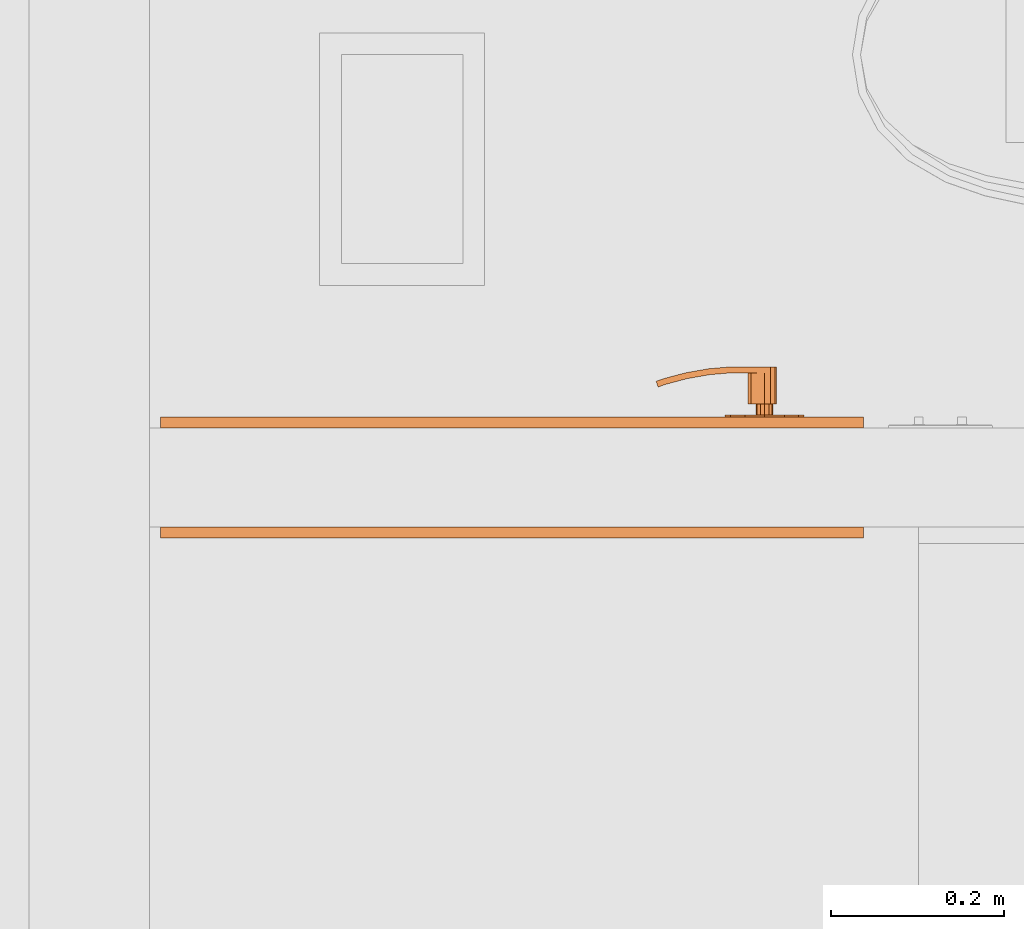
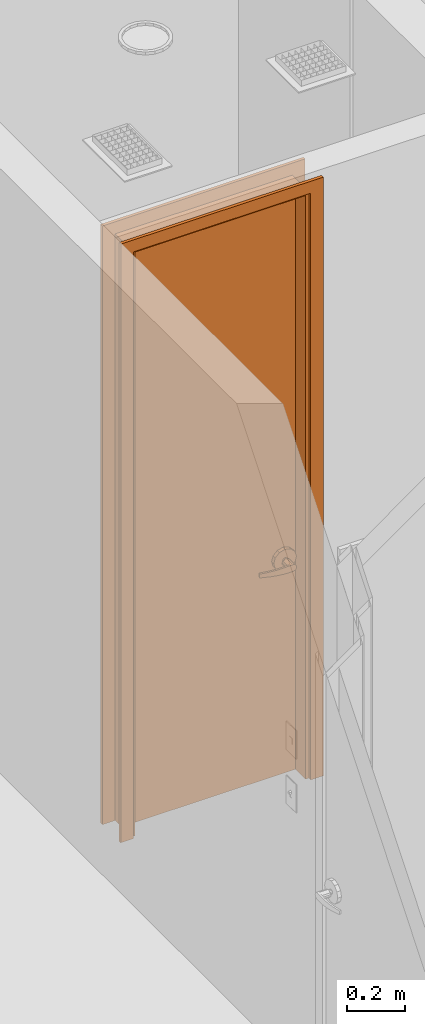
# One storey, part 23 of 48: 1 proxy.
"""IFC2X3 building model written with IfcOpenShell, lengths in inches."""

from ifc_helpers import new_model, entity, si_unit, converted_unit, derived_unit, money_unit, direction, frame, origin_with_axes, place, context, subcontext, project, spatial, open_shell, faceted_brep, surface_model, source, transform, mapped, type_object, element, save


model = new_model("IFC2X3")

# Units and contexts
model_context = context("Model", 3, precision=0.00039370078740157, world=origin_with_axes(), true_north=direction((0.0, 1.0)))
plan_context = context("Plan", 3, precision=0.00039370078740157, world=origin_with_axes(), true_north=direction((0.0, 1.0)))
body_context = subcontext(model_context, "Body", "Model", "MODEL_VIEW")
ifc_project = project(units=[converted_unit("LENGTHUNIT", "INCH", entity("IfcPositiveLengthMeasure", 0.0254), si_unit("LENGTHUNIT", "METRE"), dimensions=[1, 0, 0, 0, 0, 0, 0]), converted_unit("AREAUNIT", "SQUARE_FOOT", entity("IfcPositiveLengthMeasure", 0.09290304), si_unit("AREAUNIT", "SQUARE_METRE"), dimensions=[2, 0, 0, 0, 0, 0, 0]), si_unit("PLANEANGLEUNIT", "RADIAN"), si_unit("SOLIDANGLEUNIT", "STERADIAN"), money_unit("USD"), converted_unit("TIMEUNIT", "Year", entity("IfcTimeMeasure", 31557600.0), si_unit("TIMEUNIT", "SECOND"), dimensions=[0, 0, 1, 0, 0, 0, 0]), si_unit("MASSUNIT", "GRAM", prefix="KILO"), si_unit("THERMODYNAMICTEMPERATUREUNIT", "DEGREE_CELSIUS"), si_unit("LUMINOUSINTENSITYUNIT", "LUMEN"), si_unit("ENERGYUNIT", "JOULE", prefix="MEGA"), derived_unit("SPECIFICHEATCAPACITYUNIT", [(si_unit("ENERGYUNIT", "JOULE"), 1), (si_unit("MASSUNIT", "GRAM", prefix="KILO"), -1), (si_unit("THERMODYNAMICTEMPERATUREUNIT", "KELVIN"), -1)])], contexts=[model_context, plan_context])

# Site, building, storey
site_placement = place(None, origin_with_axes())
site = spatial("IfcSite", under=ifc_project, at=site_placement, Name="Site", CompositionType="ELEMENT")
building_placement = place(site_placement, origin_with_axes())
building = spatial("IfcBuilding", under=site, at=building_placement, Name="Building", CompositionType="ELEMENT")
storey_placement = place(building_placement, origin_with_axes())
storey = spatial("IfcBuildingStorey", under=building, at=storey_placement, Name="First Floor", CompositionType="ELEMENT", Elevation=0.0)

# Proxy
building_element_proxy_type = type_object("IfcBuildingElementProxyType", Name="D1", PredefinedType="NOTDEFINED")
shared_shape = source(origin_with_axes(), body_context, "Body", "SurfaceModel", [
    faceted_brep([(15.9999999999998, -4.999999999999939, 0.0), (13.99999999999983, -4.999999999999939, 0.0), (13.99999999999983, -4.499999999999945, 0.0), (15.9999999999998, -4.499999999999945, 0.0), (15.9999999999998, -4.999999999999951, 99.99999999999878), (13.99999999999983, -4.999999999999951, 97.99999999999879), (13.99999999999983, -4.499999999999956, 97.99999999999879), (15.9999999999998, -4.499999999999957, 99.99999999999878)], [[[0, 1, 2, 3]], [[0, 4, 5, 1]], [[1, 5, 6, 2]], [[3, 2, 6, 7]], [[4, 0, 3, 7]], [[5, 4, 7, 6]]]),
    faceted_brep([(-15.9999999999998, -4.999999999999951, 99.99999999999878), (-13.99999999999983, -4.999999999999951, 97.99999999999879), (-13.99999999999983, -4.499999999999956, 97.99999999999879), (-15.9999999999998, -4.499999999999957, 99.99999999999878), (-15.9999999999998, -4.999999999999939, 0.0), (-13.99999999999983, -4.999999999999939, 0.0), (-13.99999999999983, -4.499999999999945, 0.0), (-15.9999999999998, -4.499999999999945, 0.0)], [[[0, 1, 2, 3]], [[0, 4, 5, 1]], [[1, 5, 6, 2]], [[3, 2, 6, 7]], [[4, 0, 3, 7]], [[5, 4, 7, 6]]]),
    faceted_brep([(15.9999999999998, -4.999999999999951, 99.99999999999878), (13.99999999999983, -4.999999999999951, 97.99999999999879), (13.99999999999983, -4.499999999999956, 97.99999999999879), (15.9999999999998, -4.499999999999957, 99.99999999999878), (-15.9999999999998, -4.999999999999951, 99.99999999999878), (-13.99999999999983, -4.999999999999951, 97.99999999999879), (-13.99999999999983, -4.499999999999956, 97.99999999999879), (-15.9999999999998, -4.499999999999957, 99.99999999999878)], [[[0, 1, 2, 3]], [[0, 4, 5, 1]], [[1, 5, 6, 2]], [[3, 2, 6, 7]], [[4, 0, 3, 7]], [[5, 4, 7, 6]]]),
    faceted_brep([(15.9999999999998, 0.4999999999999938, 0.0), (15.9999999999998, 0.0, 0.0), (13.99999999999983, 0.0, 0.0), (13.99999999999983, 0.4999999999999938, 0.0), (15.9999999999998, 0.4999999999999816, 99.99999999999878), (15.9999999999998, 0.0, 99.99999999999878), (13.99999999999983, 0.0, 97.99999999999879), (13.99999999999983, 0.4999999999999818, 97.99999999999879)], [[[0, 1, 2, 3]], [[4, 5, 1, 0]], [[1, 5, 6, 2]], [[3, 2, 6, 7]], [[0, 3, 7, 4]], [[7, 6, 5, 4]]]),
    faceted_brep([(-15.9999999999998, 0.4999999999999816, 99.99999999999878), (-15.9999999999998, 0.0, 99.99999999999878), (-13.99999999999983, 0.0, 97.99999999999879), (-13.99999999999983, 0.4999999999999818, 97.99999999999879), (-15.9999999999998, 0.4999999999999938, 0.0), (-15.9999999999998, 0.0, 0.0), (-13.99999999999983, 0.0, 0.0), (-13.99999999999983, 0.4999999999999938, 0.0)], [[[0, 1, 2, 3]], [[4, 5, 1, 0]], [[1, 5, 6, 2]], [[3, 2, 6, 7]], [[0, 3, 7, 4]], [[7, 6, 5, 4]]]),
    faceted_brep([(15.9999999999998, 0.4999999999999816, 99.99999999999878), (15.9999999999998, 0.0, 99.99999999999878), (13.99999999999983, 0.0, 97.99999999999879), (13.99999999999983, 0.4999999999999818, 97.99999999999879), (-15.9999999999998, 0.4999999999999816, 99.99999999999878), (-15.9999999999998, 0.0, 99.99999999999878), (-13.99999999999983, 0.0, 97.99999999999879), (-13.99999999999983, 0.4999999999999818, 97.99999999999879)], [[[0, 1, 2, 3]], [[4, 5, 1, 0]], [[1, 5, 6, 2]], [[3, 2, 6, 7]], [[0, 3, 7, 4]], [[7, 6, 5, 4]]]),
    faceted_brep([(13.99999999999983, 0.0, 0.0), (13.99999999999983, -4.499999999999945, 0.0), (13.49999999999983, -4.499999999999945, 0.0), (13.49999999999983, 0.0, 0.0), (13.99999999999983, 0.0, 97.49999999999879), (13.99999999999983, -4.499999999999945, 97.49999999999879), (13.49999999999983, -4.499999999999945, 97.49999999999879), (13.49999999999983, 0.0, 97.49999999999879)], [[[0, 1, 2, 3]], [[4, 5, 1, 0]], [[1, 5, 6, 2]], [[3, 2, 6, 7]], [[0, 3, 7, 4]], [[7, 6, 5, 4]]]),
    faceted_brep([(-13.99999999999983, 0.0, 0.0), (-13.99999999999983, -4.499999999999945, 0.0), (-13.99999999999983, -4.499999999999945, 97.49999999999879), (-13.99999999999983, 0.0, 97.49999999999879), (-13.49999999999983, 0.0, 0.0), (-13.49999999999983, -4.499999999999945, 0.0), (-13.49999999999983, -4.499999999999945, 97.49999999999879), (-13.49999999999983, 0.0, 97.49999999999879)], [[[0, 1, 2, 3]], [[4, 5, 1, 0]], [[1, 5, 6, 2]], [[3, 2, 6, 7]], [[0, 3, 7, 4]], [[7, 6, 5, 4]]]),
    faceted_brep([(13.99999999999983, 0.0, 97.99999999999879), (13.99999999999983, -4.499999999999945, 97.99999999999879), (13.99999999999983, -4.499999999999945, 97.49999999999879), (13.99999999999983, 0.0, 97.49999999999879), (-13.99999999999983, 0.0, 97.99999999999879), (-13.99999999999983, -4.499999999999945, 97.99999999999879), (-13.99999999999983, -4.499999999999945, 97.49999999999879), (-13.49999999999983, -4.499999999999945, 97.49999999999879), (13.49999999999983, -4.499999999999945, 97.49999999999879), (13.49999999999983, 0.0, 97.49999999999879), (-13.49999999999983, 0.0, 97.49999999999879), (-13.99999999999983, 0.0, 97.49999999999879)], [[[0, 1, 2, 3]], [[4, 5, 1, 0]], [[1, 5, 6, 7, 8, 2]], [[3, 2, 8, 9]], [[0, 3, 9, 10, 11, 4]], [[11, 6, 5, 4]], [[10, 7, 6, 11]], [[9, 8, 7, 10]]]),
    surface_model("IfcShellBasedSurfaceModel", [(9.94865528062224, -2.340551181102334, 36.89566929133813), (9.94865528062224, -2.336614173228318, 36.89566929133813), (9.708661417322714, -2.336614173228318, 35.99999999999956), (9.708661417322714, -2.340551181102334, 35.99999999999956), (10.60433070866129, -2.340551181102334, 37.55134471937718), (10.60433070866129, -2.336614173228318, 37.55134471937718), (9.94865528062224, -1.753937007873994, 36.89566929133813), (9.708661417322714, -1.753937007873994, 35.99999999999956), (9.948655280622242, -2.336614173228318, 35.10433070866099), (9.948655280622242, -2.340551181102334, 35.10433070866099), (10.60433070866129, -2.340551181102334, 34.44865528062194), (11.49999999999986, -2.340551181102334, 34.20866141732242), (12.39566929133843, -2.340551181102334, 34.44865528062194), (13.05134471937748, -2.340551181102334, 35.10433070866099), (13.291338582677, -2.340551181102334, 35.99999999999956), (13.05134471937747, -2.340551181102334, 36.89566929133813), (12.39566929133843, -2.340551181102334, 37.55134471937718), (11.49999999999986, -2.340551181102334, 37.7913385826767), (11.49999999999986, -2.336614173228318, 37.7913385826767), (10.60433070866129, -1.753937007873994, 37.55134471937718), (9.94865528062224, -1.749999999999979, 36.89566929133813), (9.708661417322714, -1.749999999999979, 35.99999999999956), (9.948655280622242, -1.753937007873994, 35.10433070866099), (10.60433070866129, -2.336614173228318, 34.44865528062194), (11.49999999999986, -2.336614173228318, 34.20866141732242), (12.39566929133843, -2.336614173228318, 34.44865528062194), (13.05134471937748, -2.336614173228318, 35.10433070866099), (13.291338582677, -2.336614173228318, 35.99999999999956), (13.05134471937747, -2.336614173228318, 36.89566929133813), (12.39566929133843, -2.336614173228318, 37.55134471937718), (11.49999999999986, -1.753937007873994, 37.7913385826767), (10.60433070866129, -1.749999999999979, 37.55134471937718), (9.948655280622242, -1.749999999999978, 35.10433070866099), (10.60433070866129, -1.753937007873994, 34.44865528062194), (11.49999999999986, -1.753937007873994, 34.20866141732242), (12.39566929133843, -1.753937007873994, 34.44865528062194), (13.05134471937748, -1.753937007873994, 35.10433070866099), (13.291338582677, -1.753937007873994, 35.99999999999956), (13.05134471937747, -1.753937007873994, 36.89566929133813), (12.39566929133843, -1.753937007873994, 37.55134471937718), (11.49999999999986, -1.749999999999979, 37.7913385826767), (10.60433070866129, -1.749999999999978, 34.44865528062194), (11.49999999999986, -1.749999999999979, 34.20866141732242), (12.39566929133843, -1.749999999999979, 34.44865528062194), (13.05134471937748, -1.749999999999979, 35.10433070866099), (13.291338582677, -1.749999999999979, 35.99999999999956), (13.05134471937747, -1.749999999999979, 36.89566929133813), (12.39566929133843, -1.749999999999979, 37.55134471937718)], [open_shell([[[0, 1, 2, 3]], [[4, 5, 1, 0]], [[1, 6, 7, 2]], [[3, 2, 8, 9]], [[3, 9, 10, 11, 12, 13, 14, 15, 16, 17, 4, 0]], [[17, 18, 5, 4]], [[5, 19, 6, 1]], [[6, 20, 21, 7]], [[2, 7, 22, 8]], [[9, 8, 23, 10]], [[10, 23, 24, 11]], [[11, 24, 25, 12]], [[12, 25, 26, 13]], [[13, 26, 27, 14]], [[14, 27, 28, 15]], [[15, 28, 29, 16]], [[16, 29, 18, 17]], [[18, 30, 19, 5]], [[19, 31, 20, 6]], [[7, 21, 32, 22]], [[8, 22, 33, 23]], [[23, 33, 34, 24]], [[24, 34, 35, 25]], [[25, 35, 36, 26]], [[26, 36, 37, 27]], [[27, 37, 38, 28]], [[28, 38, 39, 29]], [[29, 39, 30, 18]], [[30, 40, 31, 19]], [[22, 32, 41, 33]], [[33, 41, 42, 34]], [[34, 42, 43, 35]], [[35, 43, 44, 36]], [[36, 44, 45, 37]], [[37, 45, 46, 38]], [[38, 46, 47, 39]], [[39, 47, 40, 30]]])]),
    faceted_brep([(11.69685039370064, -2.340551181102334, 35.65904511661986), (11.49999999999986, -2.340551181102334, 35.60629921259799), (11.30314960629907, -2.340551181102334, 35.65904511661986), (11.15904511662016, -2.340551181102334, 35.80314960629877), (11.10629921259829, -2.340551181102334, 35.99999999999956), (11.15904511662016, -2.340551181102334, 36.19685039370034), (11.30314960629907, -2.340551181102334, 36.34095488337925), (11.49999999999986, -2.340551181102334, 36.39370078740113), (11.69685039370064, -2.340551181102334, 36.34095488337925), (11.84095488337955, -2.340551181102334, 36.19685039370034), (11.89370078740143, -2.340551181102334, 35.99999999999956), (11.84095488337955, -2.340551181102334, 35.80314960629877), (11.69685039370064, -2.852362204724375, 35.65904511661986), (11.49999999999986, -2.852362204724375, 35.60629921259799), (11.30314960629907, -2.852362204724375, 35.65904511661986), (11.15904511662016, -2.852362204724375, 35.80314960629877), (11.10629921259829, -2.852362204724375, 35.99999999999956), (11.15904511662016, -2.852362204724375, 36.19685039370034), (11.30314960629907, -2.852362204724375, 36.34095488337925), (11.49999999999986, -2.852362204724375, 36.39370078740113), (11.69685039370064, -2.852362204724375, 36.34095488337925), (11.84095488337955, -2.852362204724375, 36.19685039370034), (11.89370078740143, -2.852362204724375, 35.99999999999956), (11.84095488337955, -2.852362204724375, 35.80314960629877)], [[[0, 1, 2, 3, 4, 5, 6, 7, 8, 9, 10, 11]], [[0, 12, 13, 1]], [[1, 13, 14, 2]], [[2, 14, 15, 3]], [[3, 15, 16, 4]], [[4, 16, 17, 5]], [[5, 17, 18, 6]], [[6, 18, 19, 7]], [[7, 19, 20, 8]], [[8, 20, 21, 9]], [[9, 21, 22, 10]], [[10, 22, 23, 11]], [[11, 23, 12, 0]], [[12, 23, 22, 21, 20, 19, 18, 17, 16, 15, 14, 13]]]),
    faceted_brep([(11.49999999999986, -2.852362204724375, 36.55118110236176), (11.49999999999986, -4.269685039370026, 36.55118110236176), (11.77559055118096, -4.269685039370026, 36.47733683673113), (11.77559055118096, -2.852362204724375, 36.47733683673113), (11.10629921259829, -2.852362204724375, 36.47244094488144), (11.10629921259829, -4.269685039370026, 36.47244094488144), (10.87352117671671, -4.269685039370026, 36.35358914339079), (10.73705189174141, -4.269685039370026, 36.13068221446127), (10.73705189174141, -4.269685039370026, 35.86931778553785), (10.87352117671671, -4.269685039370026, 35.64641085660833), (11.10629921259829, -4.269685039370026, 35.52755905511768), (11.49999999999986, -4.269685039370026, 35.44881889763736), (11.77559055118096, -4.269685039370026, 35.52266316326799), (11.97733683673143, -4.269685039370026, 35.72440944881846), (12.05118110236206, -4.269685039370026, 35.99999999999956), (11.97733683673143, -4.269685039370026, 36.27559055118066), (11.97733683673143, -2.852362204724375, 36.27559055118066), (12.05118110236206, -2.852362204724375, 35.99999999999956), (11.97733683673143, -2.852362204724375, 35.72440944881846), (11.77559055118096, -2.852362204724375, 35.52266316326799), (11.49999999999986, -2.852362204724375, 35.44881889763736), (11.10629921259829, -2.852362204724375, 35.52755905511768), (10.87352117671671, -2.852362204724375, 35.64641085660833), (10.73705189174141, -2.852362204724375, 35.86931778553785), (10.73705189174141, -2.852362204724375, 36.13068221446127), (10.87352117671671, -2.852362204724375, 36.35358914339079)], [[[0, 1, 2, 3]], [[4, 5, 1, 0]], [[1, 5, 6, 7, 8, 9, 10, 11, 12, 13, 14, 15, 2]], [[3, 2, 15, 16]], [[0, 3, 16, 17, 18, 19, 20, 21, 22, 23, 24, 25, 4]], [[25, 6, 5, 4]], [[24, 7, 6, 25]], [[23, 8, 7, 24]], [[22, 9, 8, 23]], [[21, 10, 9, 22]], [[20, 11, 10, 21]], [[19, 12, 11, 20]], [[18, 13, 12, 19]], [[17, 14, 13, 18]], [[16, 15, 14, 17]]]),
    surface_model("IfcShellBasedSurfaceModel", [(11.49999999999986, -4.269685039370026, 36.55118110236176), (11.49999999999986, -4.545275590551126, 36.55118110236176), (11.77559055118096, -4.545275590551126, 36.47733683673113), (11.77559055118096, -4.269685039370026, 36.47733683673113), (10.51574803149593, -4.269685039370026, 36.55118110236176), (10.51574803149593, -4.545275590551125, 36.55118110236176), (10.51574803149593, -4.545275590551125, 35.44881889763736), (11.49999999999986, -4.545275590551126, 35.44881889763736), (11.77559055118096, -4.545275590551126, 35.52266316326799), (11.97733683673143, -4.545275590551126, 35.72440944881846), (12.05118110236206, -4.545275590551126, 35.99999999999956), (11.97733683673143, -4.545275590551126, 36.27559055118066), (11.97733683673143, -4.269685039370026, 36.27559055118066), (12.05118110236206, -4.269685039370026, 35.99999999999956), (11.97733683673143, -4.269685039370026, 35.72440944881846), (11.77559055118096, -4.269685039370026, 35.52266316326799), (11.49999999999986, -4.269685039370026, 35.44881889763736), (10.51574803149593, -4.269685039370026, 35.44881889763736)], [open_shell([[[0, 1, 2, 3]], [[4, 5, 1, 0]], [[1, 5, 6, 7, 8, 9, 10, 11, 2]], [[3, 2, 11, 12]], [[0, 3, 12, 13, 14, 15, 16, 17, 4]], [[16, 7, 6, 17]], [[15, 8, 7, 16]], [[14, 9, 8, 15]], [[13, 10, 9, 14]], [[12, 11, 10, 13]]])]),
    surface_model("IfcShellBasedSurfaceModel", [(10.51574803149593, -4.269685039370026, 35.44881889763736), (9.988035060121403, -4.545275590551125, 35.47974008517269), (10.00006760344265, -4.269685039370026, 35.47974008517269), (10.51574803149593, -4.545275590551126, 35.44881889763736), (8.93662533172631, -4.453289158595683, 35.54158246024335), (10.00006760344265, -4.269685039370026, 36.52025991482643), (10.51574803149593, -4.269685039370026, 36.55118110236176), (10.51574803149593, -4.545275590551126, 36.55118110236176), (9.988035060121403, -4.545275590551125, 36.52025991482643), (8.93662533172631, -4.453289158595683, 36.45841753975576), (8.972631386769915, -4.179796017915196, 35.54158246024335), (8.972631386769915, -4.179796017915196, 36.45841753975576), (7.897233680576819, -4.270016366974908, 36.3965751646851), (7.897233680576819, -4.270016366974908, 35.60342483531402), (7.956939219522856, -4.000702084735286, 35.60342483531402), (7.956939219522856, -4.000702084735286, 36.3965751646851), (6.877770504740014, -3.996852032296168, 36.33473278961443), (6.877770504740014, -3.996852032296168, 35.66526721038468), (6.960721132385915, -3.733766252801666, 35.66526721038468), (6.960721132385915, -3.733766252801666, 36.33473278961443), (6.560582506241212, -3.881405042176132, 36.31496062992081), (6.560582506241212, -3.881405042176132, 35.6850393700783), (6.650765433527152, -3.620951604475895, 35.6850393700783), (6.650765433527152, -3.620951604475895, 36.31496062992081)], [open_shell([[[0, 1, 2]], [[0, 3, 1]], [[2, 1, 4]], [[0, 2, 5, 6]], [[3, 7, 8, 1]], [[1, 8, 9, 4]], [[2, 4, 10]], [[2, 10, 11, 5]], [[5, 7, 6]], [[5, 8, 7]], [[11, 9, 8]], [[4, 9, 12, 13]], [[10, 4, 13]], [[10, 14, 15, 11]], [[11, 8, 5]], [[15, 9, 11]], [[15, 12, 9]], [[13, 12, 16, 17]], [[10, 13, 14]], [[14, 18, 19, 15]], [[19, 12, 15]], [[19, 16, 12]], [[17, 16, 20, 21]], [[14, 13, 17]], [[14, 17, 18]], [[18, 22, 23, 19]], [[23, 16, 19]], [[23, 20, 16]], [[22, 21, 20, 23]], [[18, 17, 21]], [[18, 21, 22]]])]),
    surface_model("IfcShellBasedSurfaceModel", [(9.948655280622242, 0.5905511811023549, 36.89566929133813), (9.708661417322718, 0.5905511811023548, 35.99999999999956), (9.708661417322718, 0.5866141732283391, 35.99999999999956), (9.948655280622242, 0.5866141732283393, 36.89566929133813), (10.60433070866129, 0.5905511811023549, 37.55134471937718), (11.49999999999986, 0.590551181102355, 37.7913385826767), (12.39566929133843, 0.590551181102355, 37.55134471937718), (13.05134471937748, 0.590551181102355, 36.89566929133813), (13.291338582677, 0.590551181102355, 35.99999999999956), (13.05134471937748, 0.5905511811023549, 35.10433070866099), (12.39566929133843, 0.5905511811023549, 34.44865528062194), (11.49999999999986, 0.5905511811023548, 34.20866141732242), (10.60433070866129, 0.5905511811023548, 34.44865528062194), (9.948655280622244, 0.5905511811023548, 35.10433070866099), (9.948655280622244, 0.5866141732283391, 35.10433070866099), (9.708661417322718, 0.00393700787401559, 35.99999999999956), (9.948655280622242, 0.00393700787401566, 36.89566929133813), (10.60433070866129, 0.5866141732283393, 37.55134471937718), (11.49999999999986, 0.5866141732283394, 37.7913385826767), (12.39566929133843, 0.5866141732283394, 37.55134471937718), (13.05134471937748, 0.5866141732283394, 36.89566929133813), (13.291338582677, 0.5866141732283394, 35.99999999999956), (13.05134471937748, 0.5866141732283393, 35.10433070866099), (12.39566929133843, 0.5866141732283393, 34.44865528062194), (11.49999999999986, 0.5866141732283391, 34.20866141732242), (10.60433070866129, 0.5866141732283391, 34.44865528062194), (9.948655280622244, 0.00393700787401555, 35.10433070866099), (9.708661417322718, 0.0, 35.99999999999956), (9.948655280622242, 0.0, 36.89566929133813), (10.60433070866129, 0.00393700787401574, 37.55134471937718), (11.49999999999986, 0.00393700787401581, 37.7913385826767), (12.39566929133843, 0.00393700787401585, 37.55134471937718), (13.05134471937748, 0.00393700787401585, 36.89566929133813), (13.291338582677, 0.00393700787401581, 35.99999999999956), (13.05134471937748, 0.00393700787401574, 35.10433070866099), (12.39566929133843, 0.00393700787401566, 34.44865528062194), (11.49999999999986, 0.00393700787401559, 34.20866141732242), (10.60433070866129, 0.00393700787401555, 34.44865528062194), (9.948655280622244, 0.0, 35.10433070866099), (10.60433070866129, 0.0, 37.55134471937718), (11.49999999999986, 0.0, 37.7913385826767), (12.39566929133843, 0.0, 37.55134471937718), (13.05134471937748, 0.0, 36.89566929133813), (13.291338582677, 0.0, 35.99999999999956), (13.05134471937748, 0.0, 35.10433070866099), (12.39566929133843, 0.0, 34.44865528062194), (11.49999999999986, 0.0, 34.20866141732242), (10.60433070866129, 0.0, 34.44865528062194)], [open_shell([[[0, 1, 2, 3]], [[1, 0, 4, 5, 6, 7, 8, 9, 10, 11, 12, 13]], [[1, 13, 14, 2]], [[3, 2, 15, 16]], [[4, 0, 3, 17]], [[5, 4, 17, 18]], [[6, 5, 18, 19]], [[7, 6, 19, 20]], [[8, 7, 20, 21]], [[9, 8, 21, 22]], [[10, 9, 22, 23]], [[11, 10, 23, 24]], [[12, 11, 24, 25]], [[13, 12, 25, 14]], [[2, 14, 26, 15]], [[16, 15, 27, 28]], [[17, 3, 16, 29]], [[18, 17, 29, 30]], [[19, 18, 30, 31]], [[20, 19, 31, 32]], [[21, 20, 32, 33]], [[22, 21, 33, 34]], [[23, 22, 34, 35]], [[24, 23, 35, 36]], [[25, 24, 36, 37]], [[14, 25, 37, 26]], [[15, 26, 38, 27]], [[29, 16, 28, 39]], [[30, 29, 39, 40]], [[31, 30, 40, 41]], [[32, 31, 41, 42]], [[33, 32, 42, 43]], [[34, 33, 43, 44]], [[35, 34, 44, 45]], [[36, 35, 45, 46]], [[37, 36, 46, 47]], [[26, 37, 47, 38]]])]),
    faceted_brep([(11.69685039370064, 0.5905511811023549, 35.65904511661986), (11.84095488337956, 0.5905511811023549, 35.80314960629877), (11.89370078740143, 0.5905511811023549, 35.99999999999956), (11.84095488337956, 0.5905511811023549, 36.19685039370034), (11.69685039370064, 0.5905511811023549, 36.34095488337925), (11.49999999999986, 0.5905511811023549, 36.39370078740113), (11.30314960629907, 0.5905511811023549, 36.34095488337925), (11.15904511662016, 0.5905511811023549, 36.19685039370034), (11.10629921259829, 0.5905511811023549, 35.99999999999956), (11.15904511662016, 0.5905511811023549, 35.80314960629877), (11.30314960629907, 0.5905511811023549, 35.65904511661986), (11.49999999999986, 0.5905511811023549, 35.60629921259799), (11.69685039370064, 1.102362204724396, 35.65904511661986), (11.84095488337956, 1.102362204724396, 35.80314960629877), (11.89370078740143, 1.102362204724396, 35.99999999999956), (11.84095488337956, 1.102362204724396, 36.19685039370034), (11.69685039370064, 1.102362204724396, 36.34095488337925), (11.49999999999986, 1.102362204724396, 36.39370078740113), (11.30314960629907, 1.102362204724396, 36.34095488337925), (11.15904511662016, 1.102362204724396, 36.19685039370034), (11.10629921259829, 1.102362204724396, 35.99999999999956), (11.15904511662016, 1.102362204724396, 35.80314960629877), (11.30314960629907, 1.102362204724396, 35.65904511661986), (11.49999999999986, 1.102362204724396, 35.60629921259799)], [[[0, 1, 2, 3, 4, 5, 6, 7, 8, 9, 10, 11]], [[1, 0, 12, 13]], [[2, 1, 13, 14]], [[3, 2, 14, 15]], [[4, 3, 15, 16]], [[5, 4, 16, 17]], [[6, 5, 17, 18]], [[7, 6, 18, 19]], [[8, 7, 19, 20]], [[9, 8, 20, 21]], [[10, 9, 21, 22]], [[11, 10, 22, 23]], [[0, 11, 23, 12]], [[12, 23, 22, 21, 20, 19, 18, 17, 16, 15, 14, 13]]]),
    faceted_brep([(11.49999999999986, 1.102362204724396, 36.55118110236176), (11.77559055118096, 1.102362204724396, 36.47733683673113), (11.77559055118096, 2.519685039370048, 36.47733683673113), (11.49999999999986, 2.519685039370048, 36.55118110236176), (11.10629921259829, 1.102362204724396, 36.47244094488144), (10.87352117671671, 1.102362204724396, 36.35358914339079), (10.73705189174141, 1.102362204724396, 36.13068221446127), (10.73705189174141, 1.102362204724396, 35.86931778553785), (10.87352117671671, 1.102362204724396, 35.64641085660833), (11.10629921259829, 1.102362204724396, 35.52755905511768), (11.49999999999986, 1.102362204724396, 35.44881889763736), (11.77559055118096, 1.102362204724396, 35.52266316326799), (11.97733683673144, 1.102362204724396, 35.72440944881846), (12.05118110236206, 1.102362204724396, 35.99999999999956), (11.97733683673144, 1.102362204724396, 36.27559055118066), (11.97733683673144, 2.519685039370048, 36.27559055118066), (12.05118110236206, 2.519685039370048, 35.99999999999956), (11.97733683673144, 2.519685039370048, 35.72440944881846), (11.77559055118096, 2.519685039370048, 35.52266316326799), (11.49999999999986, 2.519685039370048, 35.44881889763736), (11.10629921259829, 2.519685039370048, 35.52755905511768), (10.87352117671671, 2.519685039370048, 35.64641085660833), (10.73705189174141, 2.519685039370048, 35.86931778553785), (10.73705189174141, 2.519685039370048, 36.13068221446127), (10.87352117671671, 2.519685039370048, 36.35358914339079), (11.10629921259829, 2.519685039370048, 36.47244094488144)], [[[0, 1, 2, 3]], [[0, 4, 5, 6, 7, 8, 9, 10, 11, 12, 13, 14, 1]], [[1, 14, 15, 2]], [[3, 2, 15, 16, 17, 18, 19, 20, 21, 22, 23, 24, 25]], [[4, 0, 3, 25]], [[5, 4, 25, 24]], [[6, 5, 24, 23]], [[7, 6, 23, 22]], [[8, 7, 22, 21]], [[9, 8, 21, 20]], [[10, 9, 20, 19]], [[11, 10, 19, 18]], [[12, 11, 18, 17]], [[13, 12, 17, 16]], [[14, 13, 16, 15]]]),
    surface_model("IfcShellBasedSurfaceModel", [(11.49999999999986, 2.519685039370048, 36.55118110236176), (11.77559055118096, 2.519685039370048, 36.47733683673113), (11.77559055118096, 2.795275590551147, 36.47733683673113), (11.49999999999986, 2.795275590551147, 36.55118110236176), (10.51574803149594, 2.519685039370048, 36.55118110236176), (10.51574803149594, 2.519685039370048, 35.44881889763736), (11.49999999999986, 2.519685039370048, 35.44881889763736), (11.77559055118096, 2.519685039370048, 35.52266316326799), (11.97733683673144, 2.519685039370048, 35.72440944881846), (12.05118110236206, 2.519685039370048, 35.99999999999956), (11.97733683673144, 2.519685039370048, 36.27559055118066), (11.97733683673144, 2.795275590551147, 36.27559055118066), (12.05118110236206, 2.795275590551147, 35.99999999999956), (11.97733683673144, 2.795275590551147, 35.72440944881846), (11.77559055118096, 2.795275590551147, 35.52266316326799), (11.49999999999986, 2.795275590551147, 35.44881889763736), (10.51574803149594, 2.795275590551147, 35.44881889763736), (10.51574803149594, 2.795275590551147, 36.55118110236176)], [open_shell([[[0, 1, 2, 3]], [[0, 4, 5, 6, 7, 8, 9, 10, 1]], [[1, 10, 11, 2]], [[3, 2, 11, 12, 13, 14, 15, 16, 17]], [[4, 0, 3, 17]], [[6, 5, 16, 15]], [[7, 6, 15, 14]], [[8, 7, 14, 13]], [[9, 8, 13, 12]], [[10, 9, 12, 11]]])]),
    surface_model("IfcShellBasedSurfaceModel", [(10.51574803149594, 2.519685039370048, 35.44881889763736), (10.00006760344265, 2.519685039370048, 35.47974008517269), (9.988035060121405, 2.795275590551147, 35.47974008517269), (10.51574803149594, 2.519685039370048, 36.55118110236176), (10.00006760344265, 2.519685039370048, 36.52025991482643), (8.936625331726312, 2.703289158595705, 35.54158246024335), (10.51574803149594, 2.795275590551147, 35.44881889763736), (10.51574803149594, 2.795275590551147, 36.55118110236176), (8.972631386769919, 2.429796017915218, 36.45841753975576), (8.972631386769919, 2.429796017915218, 35.54158246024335), (8.936625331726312, 2.703289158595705, 36.45841753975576), (9.988035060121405, 2.795275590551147, 36.52025991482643), (7.956939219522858, 2.250702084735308, 36.3965751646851), (7.956939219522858, 2.250702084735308, 35.60342483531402), (7.897233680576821, 2.52001636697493, 35.60342483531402), (7.897233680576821, 2.52001636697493, 36.3965751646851), (6.960721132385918, 1.983766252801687, 36.33473278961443), (6.960721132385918, 1.983766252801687, 35.66526721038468), (6.877770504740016, 2.24685203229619, 35.66526721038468), (6.877770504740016, 2.24685203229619, 36.33473278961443), (6.650765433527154, 1.870951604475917, 36.31496062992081), (6.650765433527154, 1.870951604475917, 35.6850393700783), (6.560582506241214, 2.131405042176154, 35.6850393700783), (6.560582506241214, 2.131405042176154, 36.31496062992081)], [open_shell([[[0, 1, 2]], [[0, 3, 4, 1]], [[1, 5, 2]], [[0, 2, 6]], [[4, 3, 7]], [[1, 4, 8, 9]], [[1, 9, 5]], [[2, 5, 10, 11]], [[6, 2, 11, 7]], [[4, 7, 11]], [[8, 4, 11]], [[9, 8, 12, 13]], [[9, 14, 5]], [[5, 14, 15, 10]], [[8, 11, 10]], [[12, 8, 10]], [[13, 12, 16, 17]], [[9, 13, 14]], [[14, 18, 19, 15]], [[12, 10, 15]], [[16, 12, 15]], [[17, 16, 20, 21]], [[13, 17, 18]], [[13, 18, 14]], [[18, 22, 23, 19]], [[16, 15, 19]], [[20, 16, 19]], [[21, 20, 23, 22]], [[17, 21, 22]], [[17, 22, 18]], [[20, 19, 23]]])]),
    faceted_brep([(13.46062992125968, -1.749999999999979, 0.03937007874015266), (13.46062992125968, -1.749999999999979, 97.46062992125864), (-13.46062992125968, -1.749999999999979, 97.46062992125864), (-13.46062992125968, -1.749999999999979, 0.03937007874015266), (13.46062992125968, 0.0, 0.03937007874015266), (13.46062992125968, 0.0, 97.46062992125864), (-13.46062992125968, 0.0, 97.46062992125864), (-13.46062992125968, 0.0, 0.03937007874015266)], [[[0, 1, 2, 3]], [[4, 5, 1, 0]], [[2, 1, 5, 6]], [[3, 2, 6, 7]], [[7, 4, 0, 3]], [[7, 6, 5, 4]]]),
    faceted_brep([(-13.49999999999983, 0.0, 0.0), (13.49999999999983, 0.0, 0.0), (13.49999999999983, -1.749999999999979, 0.0), (-13.49999999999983, -1.749999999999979, 0.0), (-13.49999999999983, 0.0, 97.49999999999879), (13.49999999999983, 0.0, 97.49999999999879), (-13.46062992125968, 0.0, 0.039370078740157), (13.46062992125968, 0.0, 0.039370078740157), (13.46062992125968, 0.0, 97.46062992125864), (-13.46062992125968, 0.0, 97.46062992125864), (13.49999999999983, -1.749999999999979, 97.49999999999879), (-13.49999999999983, -1.749999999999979, 97.49999999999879), (-13.46062992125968, -1.749999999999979, 0.039370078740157), (-13.46062992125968, -1.749999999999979, 97.46062992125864), (13.46062992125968, -1.749999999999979, 97.46062992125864), (13.46062992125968, -1.749999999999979, 0.039370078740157)], [[[0, 1, 2, 3]], [[0, 4, 5, 1], [6, 7, 8, 9]], [[1, 5, 10, 2]], [[3, 2, 10, 11], [12, 13, 14, 15]], [[4, 0, 3, 11]], [[5, 4, 11, 10]], [[7, 6, 12, 15]], [[8, 7, 15, 14]], [[9, 8, 14, 13]], [[6, 9, 13, 12]]]),
])
proxy_placement = place(storey_placement, frame((-112.9999999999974, 486.9999999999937, 0.0), z_axis=(0.0, 0.0, 1.0), x_axis=(1.0, 0.0, 0.0)))
element("IfcBuildingElementProxy", 1, at=proxy_placement, inside=storey, type_object=building_element_proxy_type, Name="D-11", context=body_context, shape_type="MappedRepresentation", body=[
    mapped(shared_shape, transform((13.99999999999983, 4.499999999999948, 0.0))),
])

save(model, "model.ifc")
